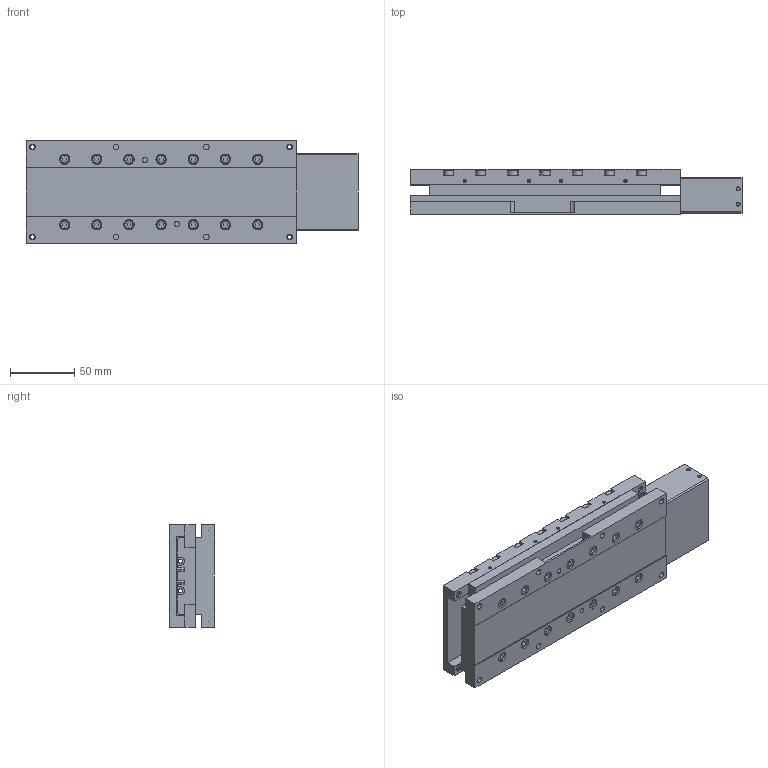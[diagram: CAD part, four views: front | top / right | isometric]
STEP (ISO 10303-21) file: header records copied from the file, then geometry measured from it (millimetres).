
FILE_DESCRIPTION((''),'2;1');
FILE_NAME('MX80S-150TVL_ASM','2003-05-23T',('FKrakosh'),(''),'PRO/ENGINEER BY PARAMETRIC TECHNOLOGY CORPORATION, 2002310','PRO/ENGINEER BY PARAMETRIC TECHNOLOGY CORPORATION, 2002310','');
FILE_SCHEMA(('CONFIG_CONTROL_DESIGN'));
Products named in the file (7): MX80S-150TVL-BASE; MX80S-BEARING-CR-150TVL; 11045610; MX80S-MOTORBLOCK; M308S; M414S; MX80S-150TVL_ASM
Assembly tree (35 placements, depth 2):
  MX80S-150TVL_ASM
    MX80S-150TVL-BASE
    MX80S-BEARING-CR-150TVL  x2
    11045610
    MX80S-MOTORBLOCK
    M308S  x2
    M414S  x28
Bounding box: 258 x 35 x 80 mm (x, y, z)
Volume: 446236.6 mm3; surface area: 142813.4 mm2
Topology: 35 solids, 72 shells, 1085 faces, 2565 edges, 1643 vertices
Faces by surface type: plane 449, cylinder 446, cone 190
Entity records: 18470 total; most frequent: DIRECTION 3435, CARTESIAN_POINT 3247, ORIENTED_EDGE 2778, EDGE_CURVE 1463, AXIS2_PLACEMENT_3D 1361, VERTEX_POINT 963, EDGE_LOOP 782, CIRCLE 738
